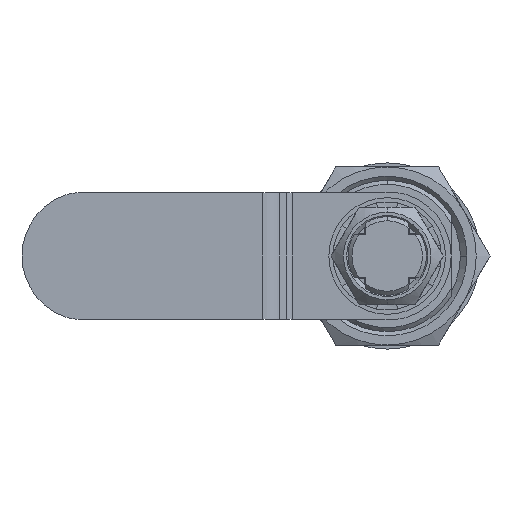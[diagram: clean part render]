
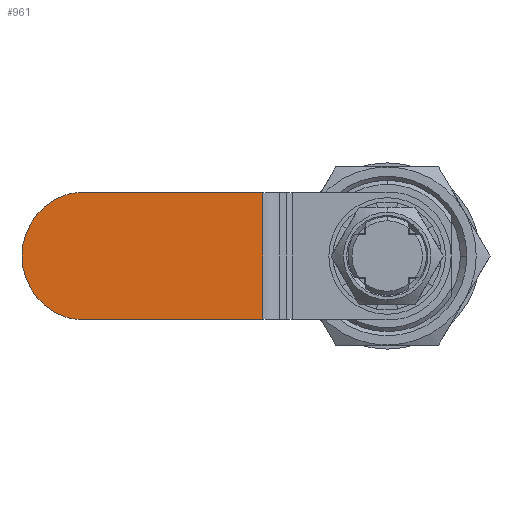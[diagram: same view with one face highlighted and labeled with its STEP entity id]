
A CAD part, front view. The second image highlights one B-rep face of the part: STEP entity #961.
In plain terms, the highlighted planar face has unit normal (0, -1, 0) as drawn and (0, 0, 1) by its records, which use the part's own axes.
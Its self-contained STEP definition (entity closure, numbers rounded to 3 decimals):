
#286 = VECTOR ( 'NONE', #3889, 1000. ) ;
#491 = VERTEX_POINT ( 'NONE', #2573 ) ;
#560 = CIRCLE ( 'NONE', #2731, 8. ) ;
#723 = AXIS2_PLACEMENT_3D ( 'NONE', #2111, #11199, #4881 ) ;
#748 = ORIENTED_EDGE ( 'NONE', *, *, #4095, .T. ) ;
#961 = ADVANCED_FACE ( 'NONE', ( #10226 ), #7248, .T. ) ;
#1043 = CARTESIAN_POINT ( 'NONE',  ( 7.8, 38.221, 4. ) ) ;
#1347 = DIRECTION ( 'NONE',  ( 0., -1., 0. ) ) ;
#1747 = EDGE_CURVE ( 'NONE', #491, #7167, #8745, .T. ) ;
#2111 = CARTESIAN_POINT ( 'NONE',  ( 2.8, 38.177, 4. ) ) ;
#2352 = ORIENTED_EDGE ( 'NONE', *, *, #9667, .F. ) ;
#2573 = CARTESIAN_POINT ( 'NONE',  ( 7.467, 39.972, 4. ) ) ;
#2731 = AXIS2_PLACEMENT_3D ( 'NONE', #6498, #8398, #5346 ) ;
#3773 = ORIENTED_EDGE ( 'NONE', *, *, #1747, .F. ) ;
#3889 = DIRECTION ( 'NONE',  ( -1., 0., 0. ) ) ;
#4010 = CARTESIAN_POINT ( 'NONE',  ( 7.8, 38.177, 4. ) ) ;
#4095 = EDGE_CURVE ( 'NONE', #10617, #5284, #6917, .T. ) ;
#4435 = EDGE_CURVE ( 'NONE', #5630, #7167, #6544, .T. ) ;
#4719 = DIRECTION ( 'NONE',  ( 0., 1., 0. ) ) ;
#4842 = VECTOR ( 'NONE', #1347, 1000. ) ;
#4881 = DIRECTION ( 'NONE',  ( -1., 0., 0. ) ) ;
#5284 = VERTEX_POINT ( 'NONE', #7987 ) ;
#5346 = DIRECTION ( 'NONE',  ( -1., 0., 0. ) ) ;
#5537 = CARTESIAN_POINT ( 'NONE',  ( 0., 36.444, 4. ) ) ;
#5598 = DIRECTION ( 'NONE',  ( 1., 0., 0. ) ) ;
#5630 = VERTEX_POINT ( 'NONE', #5698 ) ;
#5698 = CARTESIAN_POINT ( 'NONE',  ( 7.8, 15.371, 4. ) ) ;
#6495 = EDGE_CURVE ( 'NONE', #8311, #491, #560, .T. ) ;
#6498 = CARTESIAN_POINT ( 'NONE',  ( 0., 37.1, 4. ) ) ;
#6544 = LINE ( 'NONE', #1043, #7958 ) ;
#6642 = DIRECTION ( 'NONE',  ( 0., 0., -1. ) ) ;
#6917 = LINE ( 'NONE', #9650, #4842 ) ;
#7167 = VERTEX_POINT ( 'NONE', #4010 ) ;
#7248 = PLANE ( 'NONE',  #9753 ) ;
#7270 = ORIENTED_EDGE ( 'NONE', *, *, #4435, .T. ) ;
#7327 = ORIENTED_EDGE ( 'NONE', *, *, #6495, .F. ) ;
#7558 = CARTESIAN_POINT ( 'NONE',  ( -2.8, 38.177, 4. ) ) ;
#7958 = VECTOR ( 'NONE', #4719, 1000. ) ;
#7987 = CARTESIAN_POINT ( 'NONE',  ( -7.8, 15.371, 4. ) ) ;
#8311 = VERTEX_POINT ( 'NONE', #8981 ) ;
#8398 = DIRECTION ( 'NONE',  ( 0., 0., -1. ) ) ;
#8611 = LINE ( 'NONE', #11517, #286 ) ;
#8745 = CIRCLE ( 'NONE', #723, 5. ) ;
#8981 = CARTESIAN_POINT ( 'NONE',  ( -7.467, 39.972, 4. ) ) ;
#9274 = ORIENTED_EDGE ( 'NONE', *, *, #10603, .F. ) ;
#9622 = CARTESIAN_POINT ( 'NONE',  ( -7.8, 38.177, 4. ) ) ;
#9650 = CARTESIAN_POINT ( 'NONE',  ( -7.8, 38.221, 4. ) ) ;
#9667 = EDGE_CURVE ( 'NONE', #10617, #8311, #10845, .T. ) ;
#9753 = AXIS2_PLACEMENT_3D ( 'NONE', #5537, #12049, #5598 ) ;
#10226 = FACE_OUTER_BOUND ( 'NONE', #11071, .T. ) ;
#10409 = DIRECTION ( 'NONE',  ( -1., 0., 0. ) ) ;
#10603 = EDGE_CURVE ( 'NONE', #5630, #5284, #8611, .T. ) ;
#10617 = VERTEX_POINT ( 'NONE', #9622 ) ;
#10845 = CIRCLE ( 'NONE', #12010, 5. ) ;
#11071 = EDGE_LOOP ( 'NONE', ( #9274, #7270, #3773, #7327, #2352, #748 ) ) ;
#11199 = DIRECTION ( 'NONE',  ( 0., 0., -1. ) ) ;
#11517 = CARTESIAN_POINT ( 'NONE',  ( 0., 15.371, 4. ) ) ;
#12010 = AXIS2_PLACEMENT_3D ( 'NONE', #7558, #6642, #10409 ) ;
#12049 = DIRECTION ( 'NONE',  ( 0., 0., 1. ) ) ;
